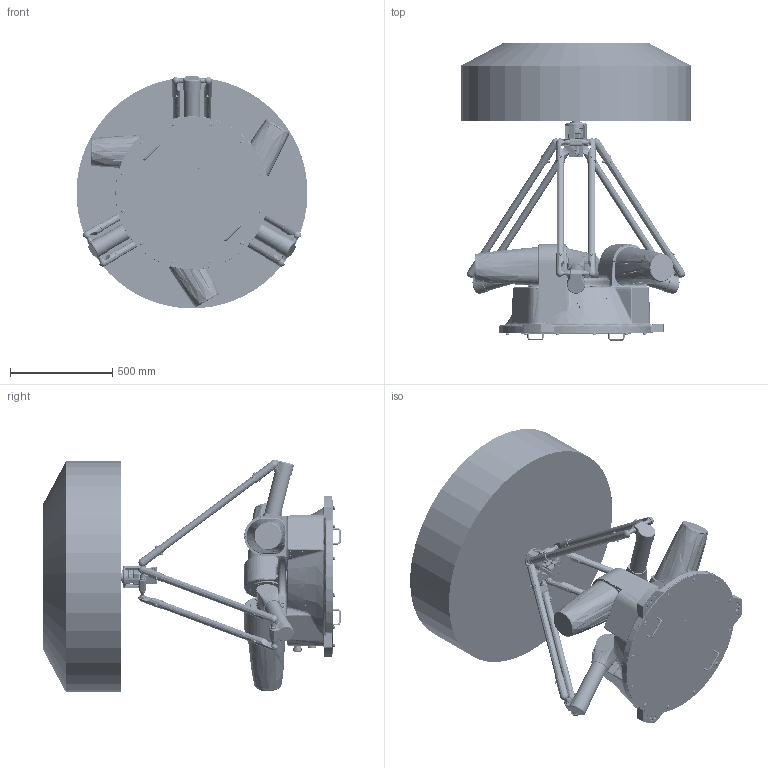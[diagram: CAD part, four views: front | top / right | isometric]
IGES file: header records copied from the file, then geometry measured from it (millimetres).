
Start section: SolidWorks IGES file using analytic representation for surfaces
Bounding box: 1129.75 x 1453.5 x 1138.37 mm (x, y, z)
Surface area: 8438007.2 mm2 (no closed solid volume)
Topology: 0 solids, 0 shells, 8600 faces, 121582 edges, 121217 vertices
Faces by surface type: bspline 4884, revolution 3716
